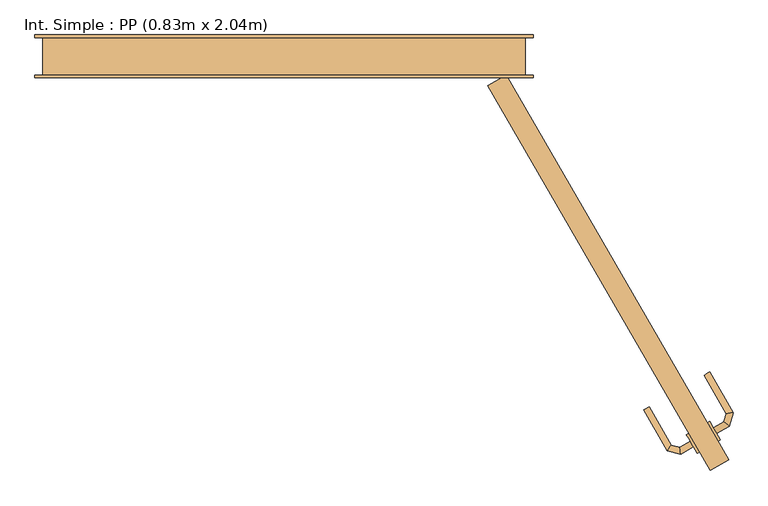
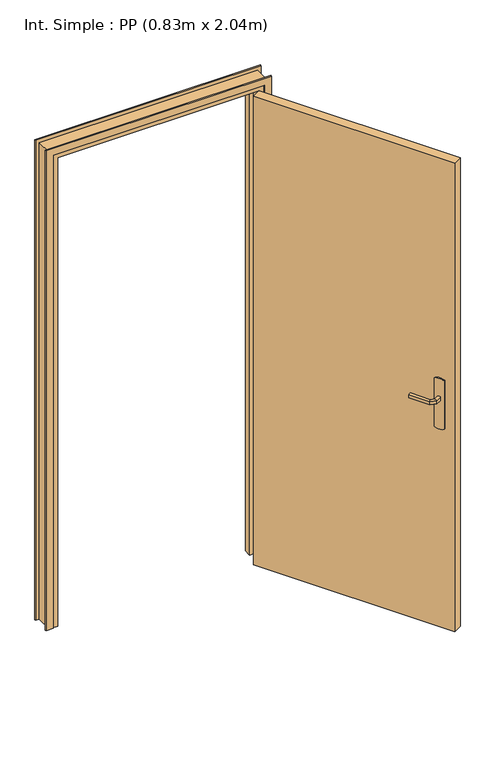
"""IFC4 building model written with IfcOpenShell, lengths in millimetres: door geometry, Int. Simple : PP (0.83m x 2.04m)."""

from ifc_helpers import new_model, si_unit, point, frame, frame_2d, origin, origin_with_axes, place, context, project, spatial, polyline, circle_curve, ellipse_curve, trimmed, segment, composite_curve, outline, extrude, faceted_brep, source, transform, mapped, element, save
from ifc_brep_helpers import plane_surface, cylinder_surface, advanced_brep


def int_simple_pp_0_83m_x_2_04m_347fc496(model_context):
    return source(origin(), model_context, "Body", "SolidModel", [
        extrude(outline(composite_curve([segment(polyline([(34.6410162, -60.0), (-175.3589838, -60.0)]), True, "CONTINUOUS"), segment(trimmed(circle_curve(frame_2d((-140.7179676, -40.0)), 40.0), [point((-175.3589838, -60.0))], [point((-175.3589838, -19.9999999))], False, "CARTESIAN"), True, "CONTINUOUS"), segment(polyline([(-175.3589838, -19.9999999), (34.6410162, -19.9999999)]), True, "CONTINUOUS"), segment(trimmed(circle_curve(frame_2d((0.0, -40.0)), 40.0), [point((34.6410162, -19.9999999))], [point((34.6410162, -60.0))], False, "CARTESIAN"), True, "CONTINUOUS")], self_intersect=False)), frame((745.0, -667.1985448, 904.6410162), z_axis=(0.8660254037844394, 0.49999999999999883, 0.0), x_axis=(0.0, 0.0, -1.0)), (0.0, 0.0, 1.0), 5.0),
        extrude(outline(composite_curve([segment(polyline([(-34.6410162, -19.9999999), (175.3589838, -19.9999999)]), True, "CONTINUOUS"), segment(trimmed(circle_curve(frame_2d((140.7179676, -40.0)), 40.0), [point((175.3589838, -19.9999999))], [point((175.3589838, -60.0))], False, "CARTESIAN"), True, "CONTINUOUS"), segment(polyline([(175.3589838, -60.0), (-34.6410162, -60.0)]), True, "CONTINUOUS"), segment(trimmed(circle_curve(frame_2d((0.0, -40.0)), 40.0), [point((-34.6410162, -60.0))], [point((-34.6410162, -19.9999999))], False, "CARTESIAN"), True, "CONTINUOUS")], self_intersect=False)), frame((706.0288568, -689.6985448, 1045.3589838), z_axis=(0.8660254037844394, 0.49999999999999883, 0.0), x_axis=(0.0, 0.0, -1.0)), (0.0, 0.0, 1.0), 5.0),
        advanced_brep(
        [(772.330127, -704.5357133, 1007.0), (766.330127, -694.1434085, 1007.0), (766.330127, -694.1434085, 993.0), (772.330127, -704.5357133, 993.0), (796.2765528, -690.710238, 1007.0), (785.9719192, -682.8032145, 1007.0), (785.9719192, -682.8032145, 993.0), (796.2765528, -690.710238, 993.0), (803.0030785, -665.6065023, 1007.0), (790.1254922, -667.3018687, 1007.0), (790.1254922, -667.3018687, 993.0), (803.0030785, -665.6065023, 993.0), (759.1823632, -589.706797, 1007.0), (759.1823632, -589.706797, 993.0), (748.7900583, -595.706797, 993.0), (748.7900583, -595.706797, 1007.0)],
        [
            (0, 1, circle_curve(frame((769.330127, -699.3395609, 986.9542278), z_axis=(-0.8660254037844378, -0.5000000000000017, 0.0), x_axis=(-0.5000000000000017, 0.8660254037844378, 0.0)), 20.9244589)),
            (1, 2),
            (2, 3, circle_curve(frame((769.330127, -699.3395609, 1013.0457722), z_axis=(-0.8660254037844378, -0.5000000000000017, 0.0), x_axis=(-0.5000000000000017, 0.8660254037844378, 0.0)), 20.9244589)),
            (3, 0),
            (0, 4),
            (4, 5, ellipse_curve(frame((791.124236, -686.7567263, 986.9542278), z_axis=(-0.6087614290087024, -0.793353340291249, 0.0), x_axis=(-0.7933533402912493, 0.6087614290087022, 0.0)), 22.6484711, 20.9244589)),
            (5, 1),
            (5, 6),
            (6, 2),
            (6, 7, ellipse_curve(frame((791.124236, -686.7567263, 1013.0457722), z_axis=(-0.6087614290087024, -0.793353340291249, 0.0), x_axis=(-0.7933533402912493, 0.6087614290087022, 0.0)), 22.6484711, 20.9244589)),
            (7, 3),
            (7, 4),
            (4, 8),
            (8, 9, ellipse_curve(frame((796.5642854, -666.4541855, 986.9542278), z_axis=(0.13052619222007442, -0.9914448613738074, 0.0), x_axis=(-0.9914448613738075, -0.13052619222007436, 0.0)), 22.6484711, 20.9244589)),
            (9, 5),
            (9, 10),
            (10, 6),
            (10, 11, ellipse_curve(frame((796.5642854, -666.4541855, 1013.0457722), z_axis=(0.13052619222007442, -0.9914448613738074, 0.0), x_axis=(-0.9914448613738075, -0.13052619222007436, 0.0)), 22.6484711, 20.9244589)),
            (11, 7),
            (11, 8),
            (12, 13),
            (13, 14, circle_curve(frame((753.9862107, -592.706797, 1013.0457722), z_axis=(-0.5000000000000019, 0.8660254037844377, 0.0), x_axis=(-0.8660254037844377, -0.5000000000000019, 0.0)), 20.9244589)),
            (14, 15),
            (15, 12, circle_curve(frame((753.9862107, -592.706797, 986.9542278), z_axis=(-0.5000000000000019, 0.8660254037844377, 0.0), x_axis=(-0.8660254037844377, -0.5000000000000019, 0.0)), 20.9244589)),
            (8, 12),
            (15, 9),
            (14, 10),
            (13, 11),
        ],
        [
            plane_surface(frame((773.9398992, -707.3239206, 1000.0), z_axis=(-0.8660254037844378, -0.5000000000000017, 0.0), x_axis=(0.0, 0.0, -1.0))),
            cylinder_surface(frame((769.330127, -699.3395609, 986.9542278), z_axis=(-0.8660254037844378, -0.5000000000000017, 0.0), x_axis=(-0.5000000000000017, 0.8660254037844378, 0.0)), 20.9244589),
            plane_surface(frame((766.330127, -694.1434085, 1007.0), z_axis=(-0.5000000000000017, 0.8660254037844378, 0.0), x_axis=(0.8660254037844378, 0.5000000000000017, 0.0))),
            cylinder_surface(frame((769.330127, -699.3395609, 1013.0457722), z_axis=(-0.8660254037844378, -0.5000000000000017, 0.0), x_axis=(-0.5000000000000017, 0.8660254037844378, 0.0)), 20.9244589),
            plane_surface(frame((772.330127, -704.5357133, 993.0), z_axis=(0.5000000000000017, -0.8660254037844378, 0.0), x_axis=(0.8660254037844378, 0.5000000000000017, 0.0))),
            cylinder_surface(frame((791.124236, -686.7567263, 986.9542278), z_axis=(-0.2588190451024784, -0.9659258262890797, 0.0), x_axis=(-0.9659258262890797, 0.2588190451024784, 0.0)), 20.9244589),
            plane_surface(frame((785.9719192, -682.8032145, 1007.0), z_axis=(-0.9659258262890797, 0.25881904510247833, 0.0), x_axis=(0.25881904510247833, 0.9659258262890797, 0.0))),
            cylinder_surface(frame((791.124236, -686.7567263, 1013.0457722), z_axis=(-0.2588190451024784, -0.9659258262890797, 0.0), x_axis=(-0.9659258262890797, 0.2588190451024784, 0.0)), 20.9244589),
            plane_surface(frame((796.2765528, -690.710238, 993.0), z_axis=(0.9659258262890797, -0.25881904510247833, 0.0), x_axis=(0.25881904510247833, 0.9659258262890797, 0.0))),
            plane_surface(frame((753.9862107, -592.706797, 990.7804555), z_axis=(-0.5000000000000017, 0.8660254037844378, 0.0), x_axis=(-0.8660254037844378, -0.5000000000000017, 0.0))),
            cylinder_surface(frame((796.5642854, -666.4541855, 986.9542278), z_axis=(0.5000000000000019, -0.8660254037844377, 0.0), x_axis=(-0.8660254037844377, -0.5000000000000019, 0.0)), 20.9244589),
            plane_surface(frame((790.1254922, -667.3018687, 1007.0), z_axis=(-0.8660254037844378, -0.5000000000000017, 0.0), x_axis=(-0.5000000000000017, 0.8660254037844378, 0.0))),
            cylinder_surface(frame((796.5642854, -666.4541855, 1013.0457722), z_axis=(0.5000000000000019, -0.8660254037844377, 0.0), x_axis=(-0.8660254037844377, -0.5000000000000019, 0.0)), 20.9244589),
            plane_surface(frame((803.0030785, -665.6065023, 993.0), z_axis=(0.8660254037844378, 0.5000000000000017, 0.0), x_axis=(-0.5000000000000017, 0.8660254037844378, 0.0))),
        ],
        [
            (0, [[1, 2, 3, 4]]),
            (1, [[-1, 5, 6, 7]]),
            (2, [[-2, -7, 8, 9]]),
            (3, [[-3, -9, 10, 11]]),
            (4, [[-4, -11, 12, -5]]),
            (5, [[-6, 13, 14, 15]]),
            (6, [[-8, -15, 16, 17]]),
            (7, [[-10, -17, 18, 19]]),
            (8, [[-12, -19, 20, -13]]),
            (9, [[21, 22, 23, 24]]),
            (10, [[-14, 25, -24, 26]]),
            (11, [[-16, -26, -23, 27]]),
            (12, [[-18, -27, -22, 28]]),
            (13, [[-20, -28, -21, -25]]),
        ],
    ),
        advanced_brep(
        [(723.0288568, -719.1434085, 993.0), (723.0288568, -719.1434085, 1007.0), (729.0288568, -729.5357133, 1007.0), (729.0288568, -729.5357133, 993.0), (703.5560985, -730.3860107, 993.0), (703.5560985, -730.3860107, 1007.0), (705.2514649, -743.263597, 1007.0), (705.2514649, -743.263597, 993.0), (687.8669124, -726.182106, 993.0), (687.8669124, -726.182106, 1007.0), (679.9598889, -736.4867396, 1007.0), (679.9598889, -736.4867396, 993.0), (646.5866612, -654.6826137, 993.0), (636.1943564, -660.6826137, 993.0), (636.1943564, -660.6826137, 1007.0), (646.5866612, -654.6826137, 1007.0)],
        [
            (0, 1),
            (1, 2, circle_curve(frame((726.0288568, -724.3395609, 986.9542278), z_axis=(0.8660254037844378, 0.5000000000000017, 0.0), x_axis=(0.5000000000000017, -0.8660254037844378, 0.0)), 20.9244589)),
            (2, 3),
            (3, 0, circle_curve(frame((726.0288568, -724.3395609, 1013.0457722), z_axis=(0.8660254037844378, 0.5000000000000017, 0.0), x_axis=(0.5000000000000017, -0.8660254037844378, 0.0)), 20.9244589)),
            (0, 4),
            (4, 5),
            (5, 1),
            (5, 6, ellipse_curve(frame((704.4037817, -736.8248039, 986.9542278), z_axis=(0.9914448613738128, 0.13052619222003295, 0.0), x_axis=(-0.13052619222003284, 0.9914448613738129, 0.0)), 22.6484711, 20.9244589)),
            (6, 2),
            (6, 7),
            (7, 3),
            (7, 4, ellipse_curve(frame((704.4037817, -736.8248039, 1013.0457722), z_axis=(0.9914448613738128, 0.13052619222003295, 0.0), x_axis=(-0.13052619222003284, 0.9914448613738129, 0.0)), 22.6484711, 20.9244589)),
            (4, 8),
            (8, 9),
            (9, 5),
            (9, 10, ellipse_curve(frame((683.9134007, -731.3344228, 986.9542278), z_axis=(0.7933533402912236, -0.6087614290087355, 0.0), x_axis=(0.608761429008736, 0.7933533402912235, 0.0)), 22.6484711, 20.9244589)),
            (10, 6),
            (10, 11),
            (11, 7),
            (11, 8, ellipse_curve(frame((683.9134007, -731.3344228, 1013.0457722), z_axis=(0.7933533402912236, -0.6087614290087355, 0.0), x_axis=(0.608761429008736, 0.7933533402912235, 0.0)), 22.6484711, 20.9244589)),
            (12, 13, circle_curve(frame((641.3905088, -657.6826137, 1013.0457722), z_axis=(-0.5000000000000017, 0.8660254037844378, 0.0), x_axis=(-0.8660254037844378, -0.5000000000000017, 0.0)), 20.9244589)),
            (13, 14),
            (14, 15, circle_curve(frame((641.3905088, -657.6826137, 986.9542278), z_axis=(-0.5000000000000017, 0.8660254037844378, 0.0), x_axis=(-0.8660254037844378, -0.5000000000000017, 0.0)), 20.9244589)),
            (15, 12),
            (8, 12),
            (15, 9),
            (14, 10),
            (13, 11),
        ],
        [
            plane_surface(frame((730.6386291, -732.3239206, 1000.0), z_axis=(0.8660254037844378, 0.5000000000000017, 0.0), x_axis=(0.0, 0.0, 1.0))),
            plane_surface(frame((723.0288568, -719.1434085, 993.0), z_axis=(-0.5000000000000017, 0.8660254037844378, 0.0), x_axis=(-0.8660254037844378, -0.5000000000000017, 0.0))),
            cylinder_surface(frame((726.0288568, -724.3395609, 986.9542278), z_axis=(0.8660254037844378, 0.5000000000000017, 0.0), x_axis=(0.5000000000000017, -0.8660254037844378, 0.0)), 20.9244589),
            plane_surface(frame((729.0288568, -729.5357133, 1007.0), z_axis=(0.5000000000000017, -0.8660254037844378, 0.0), x_axis=(-0.8660254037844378, -0.5000000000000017, 0.0))),
            cylinder_surface(frame((726.0288568, -724.3395609, 1013.0457722), z_axis=(0.8660254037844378, 0.5000000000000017, 0.0), x_axis=(0.5000000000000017, -0.8660254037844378, 0.0)), 20.9244589),
            plane_surface(frame((703.5560985, -730.3860107, 993.0), z_axis=(0.25881904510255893, 0.9659258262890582, 0.0), x_axis=(-0.9659258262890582, 0.25881904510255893, 0.0))),
            cylinder_surface(frame((704.4037817, -736.8248039, 986.9542278), z_axis=(0.9659258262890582, -0.25881904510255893, 0.0), x_axis=(-0.25881904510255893, -0.9659258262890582, 0.0)), 20.9244589),
            plane_surface(frame((705.2514649, -743.263597, 1007.0), z_axis=(-0.25881904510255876, -0.9659258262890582, 0.0), x_axis=(-0.9659258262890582, 0.25881904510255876, 0.0))),
            cylinder_surface(frame((704.4037817, -736.8248039, 1013.0457722), z_axis=(0.9659258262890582, -0.25881904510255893, 0.0), x_axis=(-0.25881904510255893, -0.9659258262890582, 0.0)), 20.9244589),
            plane_surface(frame((641.3905088, -657.6826137, 990.7804555), z_axis=(-0.5000000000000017, 0.8660254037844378, 0.0), x_axis=(-0.8660254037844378, -0.5000000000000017, 0.0))),
            plane_surface(frame((687.8669124, -726.182106, 993.0), z_axis=(0.8660254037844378, 0.5000000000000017, 0.0), x_axis=(-0.5000000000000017, 0.8660254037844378, 0.0))),
            cylinder_surface(frame((683.9134007, -731.3344228, 986.9542278), z_axis=(0.5000000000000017, -0.8660254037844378, 0.0), x_axis=(-0.8660254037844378, -0.5000000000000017, 0.0)), 20.9244589),
            plane_surface(frame((679.9598889, -736.4867396, 1007.0), z_axis=(-0.8660254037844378, -0.5000000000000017, 0.0), x_axis=(-0.5000000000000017, 0.8660254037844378, 0.0))),
            cylinder_surface(frame((683.9134007, -731.3344228, 1013.0457722), z_axis=(0.5000000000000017, -0.8660254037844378, 0.0), x_axis=(-0.8660254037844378, -0.5000000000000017, 0.0)), 20.9244589),
        ],
        [
            (0, [[1, 2, 3, 4]]),
            (1, [[-1, 5, 6, 7]]),
            (2, [[-2, -7, 8, 9]]),
            (3, [[-3, -9, 10, 11]]),
            (4, [[-4, -11, 12, -5]]),
            (5, [[-6, 13, 14, 15]]),
            (6, [[-8, -15, 16, 17]]),
            (7, [[-10, -17, 18, 19]]),
            (8, [[-12, -19, 20, -13]]),
            (9, [[21, 22, 23, 24]]),
            (10, [[-14, 25, -24, 26]]),
            (11, [[-16, -26, -23, 27]]),
            (12, [[-18, -27, -22, 28]]),
            (13, [[-20, -28, -21, -25]]),
        ],
    ),
        extrude(outline(polyline([(760.3589838, -773.8010851), (345.3589838, -55.0), (380.0, -35.0), (795.0, -753.8010851), (760.3589838, -773.8010851)])), origin_with_axes(), (0.0, 0.0, 1.0), 2040.0),
        faceted_brep([(-485.0, -35.0, 0.0), (-485.0, 35.0, 0.0), (-435.0, 35.0, 0.0), (-435.0, 5.0, 0.0), (-450.0, 5.0, 0.0), (-450.0, -35.0, 0.0), (-485.0, -35.0, 2075.0), (-485.0, 35.0, 2075.0), (415.0, 35.0, 2075.0), (415.0, 35.0, 0.0), (365.0, 35.0, 0.0), (365.0, 35.0, 2025.0), (-435.0, 35.0, 2025.0), (-435.0, 5.0, 2025.0), (365.0, 5.0, 2025.0), (365.0, 5.0, 0.0), (380.0, 5.0, 0.0), (380.0, 5.0, 2040.0), (-450.0, 5.0, 2040.0), (-450.0, -35.0, 2040.0), (380.0, -35.0, 2040.0), (380.0, -35.0, 0.0), (415.0, -35.0, 0.0), (415.0, -35.0, 2075.0)], [[[0, 1, 2, 3, 4, 5]], [[1, 0, 6, 7]], [[2, 1, 7, 8, 9, 10, 11, 12]], [[3, 2, 12, 13]], [[4, 3, 13, 14, 15, 16, 17, 18]], [[5, 4, 18, 19]], [[0, 5, 19, 20, 21, 22, 23, 6]], [[8, 23, 22, 9]], [[22, 21, 16, 15, 10, 9]], [[14, 11, 10, 15]], [[20, 17, 16, 21]], [[7, 6, 23, 8]], [[13, 12, 11, 14]], [[19, 18, 17, 20]]]),
        extrude(outline(polyline([(0.0, -500.0), (0.0, -470.0), (2060.0, -470.0), (2060.0, 400.0), (0.0, 400.0), (0.0, 430.0), (2090.0, 430.0), (2090.0, -500.0), (0.0, -500.0)])), frame((0.0, -40.0, 0.0), z_axis=(0.0, 1.0, 0.0), x_axis=(0.0, 0.0, 1.0)), (0.0, 0.0, 1.0), 5.0),
        extrude(outline(polyline([(0.0, -500.0), (0.0, -470.0), (2060.0, -470.0), (2060.0, 400.0), (0.0, 400.0), (0.0, 430.0), (2090.0, 430.0), (2090.0, -500.0), (0.0, -500.0)])), frame((0.0, 35.0, 0.0), z_axis=(0.0, 1.0, 0.0), x_axis=(0.0, 0.0, 1.0)), (0.0, 0.0, 1.0), 5.0),
    ])


if __name__ == "__main__":
    model = new_model("IFC4")
    model_context = context("Model", 3, world=origin())
    ifc_project = project(units=[si_unit("LENGTHUNIT", "METRE", prefix="MILLI")], contexts=[model_context])
    site = spatial("IfcSite", under=ifc_project)
    building = spatial("IfcBuilding", under=site)
    placement = place(None, origin())
    int_simple_pp_0_83m_x_2_04m_shape = int_simple_pp_0_83m_x_2_04m_347fc496(model_context)
    element("IfcDoor", 1, ObjectType="Int. Simple : PP (0.83m x 2.04m)", at=placement, inside=building, context=model_context, shape_type="MappedRepresentation", body=[
        mapped(int_simple_pp_0_83m_x_2_04m_shape, transform((0.0, 0.0, 0.0), x_axis=(1.0, 0.0, 0.0), y_axis=(0.0, 1.0, 0.0), z_axis=(0.0, 0.0, 1.0))),
    ])
    save(model, "model.ifc")
